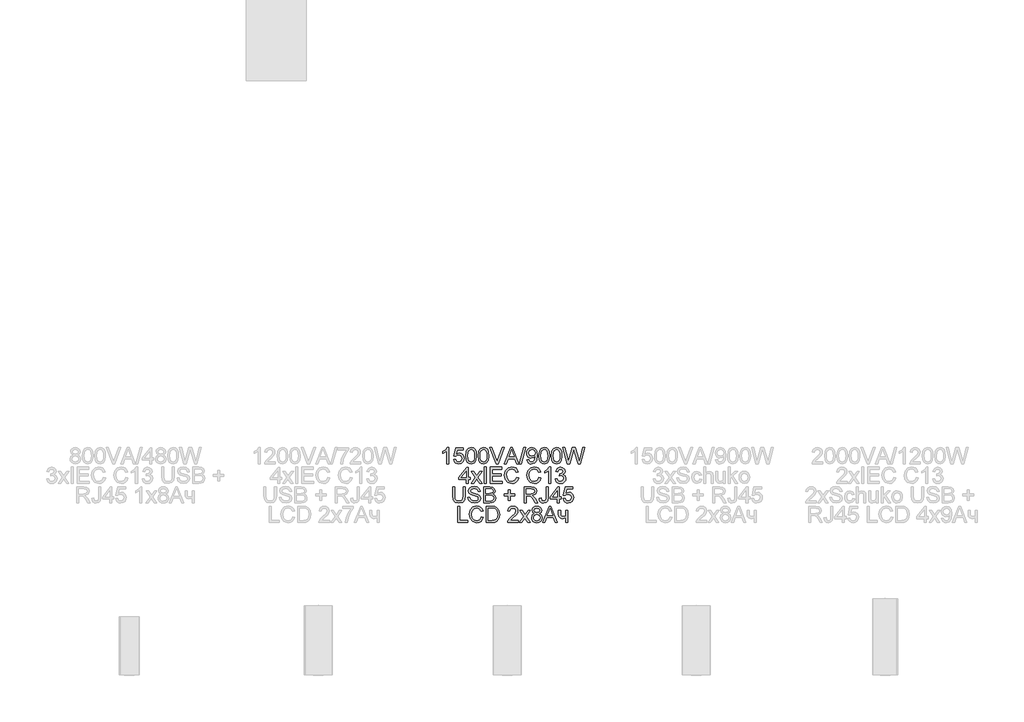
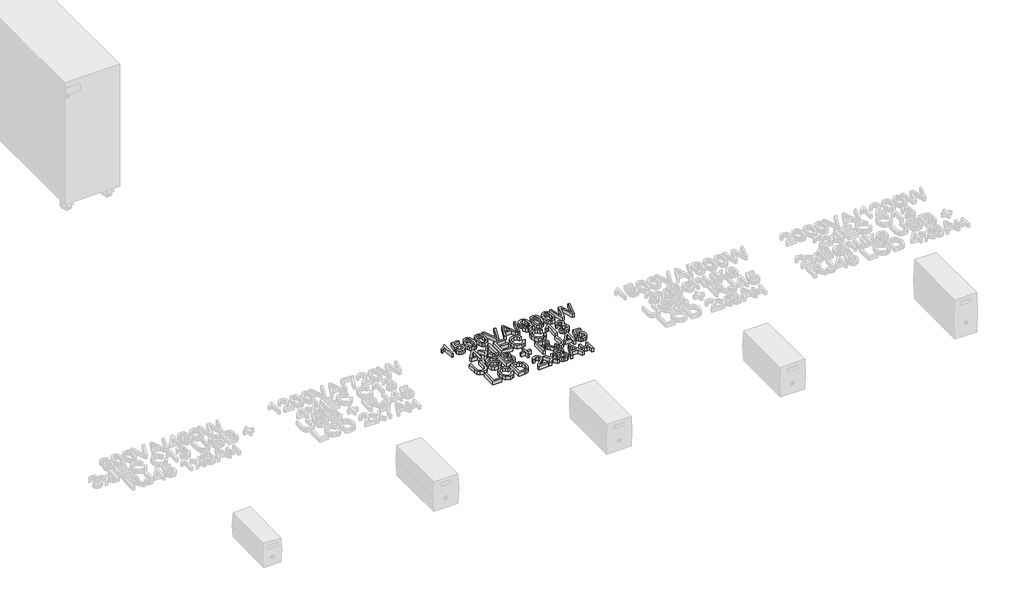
# One storey, part 42 of 74: 1 proxy.
"""IFC4 building model written with IfcOpenShell, lengths in millimetres."""

from ifc_helpers import new_model, si_unit, origin, origin_with_axes, place, context, project, spatial, polyline, outline, extrude, element, save

model = new_model("IFC4")

# Units and contexts
model_context = context("Model", 3, world=origin())
ifc_project = project(units=[si_unit("LENGTHUNIT", "METRE", prefix="MILLI")], contexts=[model_context])

# Site, building, storey
site = spatial("IfcSite", under=ifc_project)
building = spatial("IfcBuilding", under=site)
storey = spatial("IfcBuildingStorey", under=building, Name="Этаж 01", Elevation=0.0)

# Proxy
placement = place(None, origin())
element("IfcBuildingElementProxy", 1, Name="80 мм Arial", ObjectType="80 мм Arial", at=placement, inside=storey, context=model_context, shape_type="SweptSolid", body=[
    extrude(outline(polyline([(6711.7614359, -11026.633326), (6701.7158049, -11026.633326), (6701.7158049, -10964.0050951), (6692.1999239, -10970.783934), (6681.6245428, -10975.8558004), (6681.6245428, -10966.3595399), (6696.3496328, -10956.9613812), (6705.2867128, -10946.2682778), (6711.7614359, -10946.2682778), (6711.7614359, -11026.633326)])), origin_with_axes(), (0.0, 0.0, 1.0), 20.0),
    extrude(outline(polyline([(6735.6198095, -11005.2863601), (6745.6654406, -11004.0306562), (6750.7274968, -11014.380403), (6761.2243964, -11017.8433988), (6773.8206759, -11013.0265972), (6778.3137414, -11000.2439242), (6774.1051713, -10988.3147373), (6761.3813594, -10983.9393941), (6752.5620017, -10985.6856074), (6746.9211444, -10990.2179135), (6736.8755134, -10988.9622097), (6745.6654406, -10947.5239817), (6784.5922607, -10947.5239817), (6784.5922607, -10957.5696127), (6753.788275, -10957.5696127), (6749.4914133, -10979.7013936), (6764.1870727, -10973.8937631), (6773.5729687, -10975.6939324), (6781.3647094, -10981.0944401), (6786.6107066, -10989.3251866), (6788.3593724, -10999.6160722), (6786.7848374, -11009.6617032), (6782.0612326, -11018.2554267), (6773.0162406, -11025.480629), (6761.1851557, -11027.8890298), (6751.3185606, -11026.3414729), (6743.4581486, -11021.6988021), (6738.0699036, -11014.5005778), (6735.6198095, -11005.2863601)])), origin_with_axes(), (0.0, 0.0, 1.0), 20.0),
    extrude(outline(polyline([(6797.1492995, -10987.0982742), (6800.1021657, -10963.9756645), (6808.8724724, -10950.643621), (6823.5190809, -10946.2682778), (6835.252064, -10948.8581671), (6843.3552781, -10956.323719), (6848.0641676, -10968.2136651), (6849.8888623, -10987.0982742), (6846.9654267, -11010.122782), (6838.2245505, -11023.4842561), (6823.5190809, -11027.8890298), (6813.0810424, -11025.9760435), (6805.1544117, -11020.2370843), (6799.1505776, -11006.6450709), (6797.1492995, -10987.0982742)]), holes=[polyline([(6807.1949305, -10987.0786538), (6808.3721529, -11002.8804118), (6811.9038201, -11012.0259582), (6823.5190809, -11017.8433988), (6835.1343418, -11012.0063378), (6838.6660089, -11002.8558863), (6839.8432313, -10987.0786538), (6838.7052497, -10971.6325151), (6835.2913048, -10962.4158449), (6830.042855, -10957.8393929), (6823.4013587, -10956.3139089), (6812.060783, -10961.6898911), (6808.4113937, -10971.4804572), (6807.1949305, -10987.0786538)])]), origin_with_axes(), (0.0, 0.0, 1.0), 20.0),
    extrude(outline(polyline([(6858.6787895, -10987.0982742), (6861.6316556, -10963.9756645), (6870.4019624, -10950.643621), (6885.0485709, -10946.2682778), (6896.781554, -10948.8581671), (6904.8847681, -10956.323719), (6909.5936576, -10968.2136651), (6911.4183523, -10987.0982742), (6908.4949167, -11010.122782), (6899.7540405, -11023.4842561), (6885.0485709, -11027.8890298), (6874.6105324, -11025.9760435), (6866.6839017, -11020.2370843), (6860.6800675, -11006.6450709), (6858.6787895, -10987.0982742)]), holes=[polyline([(6868.7244205, -10987.0786538), (6869.9016429, -11002.8804118), (6873.43331, -11012.0259582), (6885.0485709, -11017.8433988), (6896.6638318, -11012.0063378), (6900.1954989, -11002.8558863), (6901.3727213, -10987.0786538), (6900.2347397, -10971.6325151), (6896.8207947, -10962.4158449), (6891.5723449, -10957.8393929), (6884.9308487, -10956.3139089), (6873.590273, -10961.6898911), (6869.9408836, -10971.4804572), (6868.7244205, -10987.0786538)])]), origin_with_axes(), (0.0, 0.0, 1.0), 20.0),
    extrude(outline(polyline([(6947.7160425, -11026.633326), (6915.7348344, -10946.2682778), (6926.4867988, -10946.2682778), (6947.8926259, -11004.1679988), (6952.2287283, -11017.2155469), (6956.5059696, -11004.1679988), (6977.9706578, -10946.2682778), (6988.7226222, -10946.2682778), (6958.0952199, -11026.633326), (6947.7160425, -11026.633326)])), origin_with_axes(), (0.0, 0.0, 1.0), 20.0),
    extrude(outline(polyline([(6988.7030019, -11026.633326), (7020.7823118, -10946.2682778), (7029.3367945, -10946.2682778), (7061.4161045, -11026.633326), (7050.8014826, -11026.633326), (7041.5995277, -11001.5192484), (7008.4999583, -11001.5192484), (6999.3176237, -11026.633326), (6988.7030019, -11026.633326)]), holes=[polyline([(7012.1885884, -10991.4736174), (7037.9305179, -10991.4736174), (7030.6906002, -10971.7159017), (7025.0595532, -10956.3139089), (7020.056358, -10969.9893089), (7012.1885884, -10991.4736174)])]), origin_with_axes(), (0.0, 0.0, 1.0), 20.0),
    extrude(outline(polyline([(7063.3585214, -11026.633326), (7085.9611912, -10946.2682778), (7095.0258036, -10946.2682778), (7072.4231338, -11026.633326), (7063.3585214, -11026.633326)])), origin_with_axes(), (0.0, 0.0, 1.0), 20.0),
    extrude(outline(polyline([(7101.0296377, -11006.5420639), (7111.0752687, -11005.2863601), (7115.5879545, -11014.8709123), (7124.1424372, -11017.8433988), (7132.2750818, -11015.9304124), (7137.7884067, -11010.8193053), (7141.0748192, -11002.0882392), (7142.5267268, -10990.4337376), (7142.4678656, -10988.4717003), (7134.4333229, -10996.0844051), (7123.4164834, -10999.0078407), (7114.2562217, -10997.2223867), (7106.6312542, -10991.8660249), (7101.4882639, -10983.5911325), (7099.7739338, -10973.0500871), (7101.5716505, -10962.16078), (7106.9648006, -10953.6259177), (7115.0655621, -10948.1076878), (7124.9861132, -10946.2682778), (7139.2991754, -10950.4670377), (7149.1486027, -10962.4354653), (7152.5134967, -10984.9204128), (7149.1584129, -11009.3183467), (7139.1814532, -11023.1408996), (7123.6715482, -11027.8890298), (7115.0827299, -11026.4886257), (7108.2303146, -11022.2874133), (7101.0296377, -11006.5420639)]), holes=[polyline([(7142.4678656, -10972.8146426), (7138.1317632, -10960.7677335), (7126.6146042, -10956.3139089), (7114.5284544, -10961.1110901), (7109.8195649, -10973.5405964), (7114.2733895, -10984.6751581), (7126.339919, -10988.9622097), (7137.9257493, -10984.6751581), (7142.4678656, -10972.8146426)])]), origin_with_axes(), (0.0, 0.0, 1.0), 20.0),
    extrude(outline(polyline([(7161.3034238, -10987.0982742), (7164.2562899, -10963.9756645), (7173.0265967, -10950.643621), (7187.6732052, -10946.2682778), (7199.4061883, -10948.8581671), (7207.5094024, -10956.323719), (7212.2182919, -10968.2136651), (7214.0429866, -10987.0982742), (7211.119551, -11010.122782), (7202.3786748, -11023.4842561), (7187.6732052, -11027.8890298), (7177.2351667, -11025.9760435), (7169.308536, -11020.2370843), (7163.3047019, -11006.6450709), (7161.3034238, -10987.0982742)]), holes=[polyline([(7171.3490548, -10987.0786538), (7172.5262772, -11002.8804118), (7176.0579444, -11012.0259582), (7187.6732052, -11017.8433988), (7199.2884661, -11012.0063378), (7202.8201332, -11002.8558863), (7203.9973556, -10987.0786538), (7202.859374, -10971.6325151), (7199.4454291, -10962.4158449), (7194.1969793, -10957.8393929), (7187.555483, -10956.3139089), (7176.2149073, -10961.6898911), (7172.5655179, -10971.4804572), (7171.3490548, -10987.0786538)])]), origin_with_axes(), (0.0, 0.0, 1.0), 20.0),
    extrude(outline(polyline([(7222.8329138, -10987.0982742), (7225.7857799, -10963.9756645), (7234.5560867, -10950.643621), (7249.2026952, -10946.2682778), (7260.9356783, -10948.8581671), (7269.0388924, -10956.323719), (7273.7477819, -10968.2136651), (7275.5724766, -10987.0982742), (7272.649041, -11010.122782), (7263.9081648, -11023.4842561), (7249.2026952, -11027.8890298), (7238.7646567, -11025.9760435), (7230.838026, -11020.2370843), (7224.8341918, -11006.6450709), (7222.8329138, -10987.0982742)]), holes=[polyline([(7232.8785448, -10987.0786538), (7234.0557672, -11002.8804118), (7237.5874343, -11012.0259582), (7249.2026952, -11017.8433988), (7260.817956, -11012.0063378), (7264.3496232, -11002.8558863), (7265.5268456, -10987.0786538), (7264.3888639, -10971.6325151), (7260.974919, -10962.4158449), (7255.7264692, -10957.8393929), (7249.0849729, -10956.3139089), (7237.7443973, -10961.6898911), (7234.0950079, -10971.4804572), (7232.8785448, -10987.0786538)])]), origin_with_axes(), (0.0, 0.0, 1.0), 20.0),
    extrude(outline(polyline([(7302.5112488, -11026.633326), (7280.5952921, -10946.2682778), (7290.9548491, -10946.2682778), (7303.6688508, -10999.0863222), (7307.5929255, -11015.3908522), (7311.7916853, -11000.969878), (7327.7234282, -10946.2682778), (7342.6545321, -10946.2682778), (7354.2305523, -10985.9210518), (7362.843896, -11015.3908522), (7366.6502484, -10999.5572111), (7379.4819724, -10946.2682778), (7389.8415294, -10946.2682778), (7367.9059523, -11026.633326), (7357.1736082, -11026.633326), (7337.9064019, -10964.632947), (7335.2184107, -10955.9803625), (7332.1968733, -10966.3987806), (7314.6366394, -11026.633326), (7302.5112488, -11026.633326)])), origin_with_axes(), (0.0, 0.0, 1.0), 20.0),
    extrude(outline(polyline([(6798.4050034, -11124.2131802), (6798.4050034, -11105.3776221), (6761.989591, -11105.3776221), (6761.989591, -11095.3319911), (6800.9164111, -11045.103836), (6808.4506344, -11045.103836), (6808.4506344, -11095.3319911), (6818.4962654, -11095.3319911), (6818.4962654, -11105.3776221), (6808.4506344, -11105.3776221), (6808.4506344, -11124.2131802), (6798.4050034, -11124.2131802)]), holes=[polyline([(6798.4050034, -11095.3319911), (6798.4050034, -11064.2925609), (6774.350426, -11095.3319911), (6798.4050034, -11095.3319911)])]), origin_with_axes(), (0.0, 0.0, 1.0), 20.0),
    extrude(outline(polyline([(6823.5190809, -11124.2131802), (6844.9837691, -11094.5471761), (6824.7747848, -11065.195098), (6836.8609346, -11065.195098), (6846.61226, -11079.3217666), (6851.1641866, -11085.9926935), (6855.1078816, -11080.5382298), (6866.2130127, -11065.195098), (6878.2991626, -11065.195098), (6857.0699189, -11094.5471761), (6877.5143476, -11124.2131802), (6865.4281978, -11124.2131802), (6853.1262239, -11106.3782611), (6850.869881, -11103.1212792), (6835.6052307, -11124.2131802), (6823.5190809, -11124.2131802)])), origin_with_axes(), (0.0, 0.0, 1.0), 20.0),
    extrude(outline(polyline([(6888.8156825, -11124.2131802), (6888.8156825, -11043.8481321), (6898.8613135, -11043.8481321), (6898.8613135, -11124.2131802), (6888.8156825, -11124.2131802)])), origin_with_axes(), (0.0, 0.0, 1.0), 20.0),
    extrude(outline(polyline([(6918.9525756, -11124.2131802), (6918.9525756, -11043.8481321), (6976.7149539, -11043.8481321), (6976.7149539, -11053.8937631), (6928.9982066, -11053.8937631), (6928.9982066, -11077.7521368), (6974.2035461, -11077.7521368), (6974.2035461, -11087.7977678), (6928.9982066, -11087.7977678), (6928.9982066, -11114.1675492), (6977.9706578, -11114.1675492), (6977.9706578, -11124.2131802), (6918.9525756, -11124.2131802)])), origin_with_axes(), (0.0, 0.0, 1.0), 20.0),
    extrude(outline(polyline([(7049.5457788, -11095.645917), (7059.5914098, -11098.2358063), (7054.9560966, -11109.9418114), (7047.6818433, -11118.4938415), (7038.1267216, -11123.7251235), (7026.6488034, -11125.4688841), (7005.7432959, -11120.1910038), (6993.4805627, -11104.9067331), (6989.2719927, -11083.4224246), (6994.0299331, -11061.5849494), (7007.5581804, -11047.4288502), (7026.8646275, -11042.5924282), (7037.8790144, -11044.157153), (7046.9853201, -11048.8513273), (7053.899049, -11056.3855505), (7058.3357059, -11066.4704223), (7048.2900749, -11068.8641078), (7040.0495182, -11056.5130829), (7026.47222, -11052.6380593), (7010.7563012, -11056.934921), (7001.8780824, -11068.4717003), (6999.3176237, -11083.4028042), (7002.3489713, -11100.7079733), (7011.7863708, -11111.7640535), (7025.6481644, -11115.4232531), (7041.0207267, -11110.4396783), (7049.5457788, -11095.645917)])), origin_with_axes(), (0.0, 0.0, 1.0), 20.0),
    extrude(outline(polyline([(7161.3034238, -11095.645917), (7171.3490548, -11098.2358063), (7166.7137417, -11109.9418114), (7159.4394884, -11118.4938415), (7149.8843667, -11123.7251235), (7138.4064484, -11125.4688841), (7117.5009409, -11120.1910038), (7105.2382077, -11104.9067331), (7101.0296377, -11083.4224246), (7105.7875782, -11061.5849494), (7119.3158254, -11047.4288502), (7138.6222725, -11042.5924282), (7149.6366595, -11044.157153), (7158.7429651, -11048.8513273), (7165.6566941, -11056.3855505), (7170.0933509, -11066.4704223), (7160.0477199, -11068.8641078), (7151.8071632, -11056.5130829), (7138.2298651, -11052.6380593), (7122.5139462, -11056.934921), (7113.6357274, -11068.4717003), (7111.0752687, -11083.4028042), (7114.1066164, -11100.7079733), (7123.5440158, -11111.7640535), (7137.4058094, -11115.4232531), (7152.7783717, -11110.4396783), (7161.3034238, -11095.645917)])), origin_with_axes(), (0.0, 0.0, 1.0), 20.0),
    extrude(outline(polyline([(7219.0658021, -11124.2131802), (7209.0201711, -11124.2131802), (7209.0201711, -11061.5849494), (7199.5042902, -11068.3637883), (7188.9289091, -11073.4356547), (7188.9289091, -11063.9393941), (7203.6539991, -11054.5412354), (7212.591079, -11043.8481321), (7219.0658021, -11043.8481321), (7219.0658021, -11124.2131802)])), origin_with_axes(), (0.0, 0.0, 1.0), 20.0),
    extrude(outline(polyline([(7242.9241758, -11102.8662143), (7252.9698068, -11101.6105105), (7258.5125622, -11112.1858915), (7268.8819294, -11115.4232531), (7281.0858014, -11110.9694284), (7285.6181076, -11099.9427787), (7281.1250422, -11089.5537912), (7269.705985, -11085.443323), (7262.6622711, -11086.5420639), (7263.7806324, -11076.4964329), (7265.389503, -11076.6141552), (7276.7889397, -11073.7299603), (7281.850996, -11064.8615517), (7278.1819862, -11057.0035923), (7268.7249664, -11053.8937631), (7259.1502243, -11057.0330228), (7254.2255107, -11066.4508019), (7244.1798797, -11065.195098), (7252.400816, -11049.4399384), (7268.3717997, -11043.8481321), (7280.4873801, -11046.6047945), (7288.9633812, -11054.1390178), (7291.896627, -11064.2729405), (7289.110534, -11073.5337566), (7280.8699773, -11080.1850631), (7291.8181455, -11087.0521936), (7295.6637386, -11100.1193621), (7293.7409421, -11109.9099283), (7287.9725524, -11118.0916238), (7279.2660118, -11123.624569), (7268.5287627, -11125.4688841), (7258.816678, -11123.8943492), (7250.9096676, -11119.1707444), (7245.4110581, -11111.945542), (7242.9241758, -11102.8662143)])), origin_with_axes(), (0.0, 0.0, 1.0), 20.0),
    extrude(outline(polyline([(6783.3365569, -11141.4279864), (6793.3821879, -11141.4279864), (6793.3821879, -11187.790928), (6790.654956, -11207.0090834), (6780.8251491, -11218.5851035), (6762.1857947, -11223.0487384), (6743.8309357, -11219.1639045), (6733.647962, -11207.9116206), (6730.596994, -11187.790928), (6730.596994, -11141.4279864), (6740.6426251, -11141.4279864), (6740.6426251, -11187.4377613), (6742.6242827, -11202.7514624), (6749.4325522, -11210.3347366), (6761.2440168, -11213.0031074), (6771.4613261, -11211.6836373), (6778.2548802, -11207.725227), (6782.0661377, -11200.0144204), (6783.3365569, -11187.4377613), (6783.3365569, -11141.4279864)])), origin_with_axes(), (0.0, 0.0, 1.0), 20.0),
    extrude(outline(polyline([(6807.1949305, -11194.1675492), (6817.2405615, -11194.1675492), (6820.4779231, -11204.2229904), (6828.3849334, -11210.5799913), (6840.4318425, -11213.0031074), (6850.9287421, -11211.1686025), (6857.707581, -11206.1261666), (6859.9344934, -11199.3865685), (6858.2667616, -11193.1178593), (6851.4388718, -11188.5561225), (6836.8118837, -11184.7203396), (6821.0665343, -11179.7661954), (6812.5218618, -11172.2908332), (6809.7063383, -11162.3040633), (6813.1889545, -11150.9340571), (6823.3621179, -11142.9093246), (6838.2539811, -11140.1722825), (6854.1464833, -11143.036857), (6864.7414848, -11151.453997), (6868.7244205, -11164.0306562), (6858.6787895, -11164.0306562), (6852.9888813, -11153.7103399), (6838.6463886, -11150.2179135), (6824.2646551, -11153.6710992), (6819.7519693, -11162.0097577), (6822.9500901, -11168.9749902), (6839.352722, -11174.5864169), (6857.12878, -11179.6288528), (6866.8506749, -11187.7713076), (6869.9801244, -11199.1315036), (6866.3797859, -11211.1489821), (6856.0202289, -11219.9192889), (6840.82425, -11223.0487384), (6822.8814188, -11219.6740342), (6811.531033, -11209.510681), (6807.1949305, -11194.1675492)])), origin_with_axes(), (0.0, 0.0, 1.0), 20.0),
    extrude(outline(polyline([(6885.0485709, -11221.7930345), (6885.0485709, -11141.4279864), (6915.715214, -11141.4279864), (6930.7346096, -11143.7922413), (6939.6030182, -11151.0615896), (6942.8109492, -11161.3426651), (6940.1131479, -11170.7310136), (6931.9608829, -11177.8433988), (6941.8593611, -11185.3383813), (6945.322357, -11197.836559), (6942.958102, -11208.6375744), (6937.1014207, -11216.3287606), (6928.3605445, -11220.4097982), (6915.4797695, -11221.7930345), (6885.0485709, -11221.7930345)]), holes=[polyline([(6895.0942019, -11174.0762872), (6913.4392507, -11174.0762872), (6924.1519744, -11173.2129908), (6930.597267, -11169.4949301), (6932.7653182, -11162.9515357), (6930.7444198, -11156.3983311), (6924.9564097, -11152.5233074), (6912.0462042, -11151.4736174), (6895.0942019, -11151.4736174), (6895.0942019, -11174.0762872)]), polyline([(6895.0942019, -11211.7474035), (6915.6955936, -11211.7474035), (6923.1513354, -11211.354996), (6929.4592853, -11209.1673244), (6933.6384248, -11204.7036896), (6935.276726, -11197.9346609), (6933.3539294, -11190.1257524), (6927.124461, -11185.4659138), (6914.714575, -11184.1219182), (6895.0942019, -11184.1219182), (6895.0942019, -11211.7474035)])]), origin_with_axes(), (0.0, 0.0, 1.0), 20.0),
    extrude(outline(polyline([(7009.3632547, -11209.2359957), (7009.3632547, -11187.8890298), (6988.0162888, -11187.8890298), (6988.0162888, -11177.8433988), (7009.3632547, -11177.8433988), (7009.3632547, -11156.4964329), (7019.4088857, -11156.4964329), (7019.4088857, -11177.8433988), (7040.7558516, -11177.8433988), (7040.7558516, -11187.8890298), (7019.4088857, -11187.8890298), (7019.4088857, -11209.2359957), (7009.3632547, -11209.2359957)])), origin_with_axes(), (0.0, 0.0, 1.0), 20.0),
    extrude(outline(polyline([(7087.2168951, -11221.7930345), (7087.2168951, -11141.4279864), (7121.8468535, -11141.4279864), (7137.9257493, -11143.5960376), (7146.7156764, -11151.2676035), (7150.0020889, -11163.4224246), (7144.5574354, -11177.9022599), (7127.7329655, -11185.3776221), (7133.442494, -11189.6744838), (7141.5849489, -11200.0144204), (7154.9856637, -11221.7930345), (7143.3115417, -11221.7930345), (7132.8538828, -11205.1353378), (7125.3000392, -11194.1086881), (7119.9927283, -11188.8994791), (7115.2151674, -11186.9864927), (7109.3879166, -11186.633326), (7097.2625261, -11186.633326), (7097.2625261, -11221.7930345), (7087.2168951, -11221.7930345)]), holes=[polyline([(7097.2625261, -11176.5876949), (7119.7474736, -11176.5876949), (7131.2155817, -11175.1652179), (7137.7295456, -11170.6132913), (7139.9564579, -11163.7952117), (7135.7086471, -11154.9464234), (7122.2785018, -11151.4736174), (7097.2625261, -11151.4736174), (7097.2625261, -11176.5876949)])]), origin_with_axes(), (0.0, 0.0, 1.0), 20.0),
    extrude(outline(polyline([(7162.5591277, -11199.2296055), (7172.6047587, -11197.9346609), (7176.038324, -11209.8049866), (7184.5143252, -11213.0031074), (7191.3912659, -11211.1882229), (7195.3742016, -11206.2438889), (7196.4631324, -11196.2865495), (7196.4631324, -11141.4279864), (7206.5087634, -11141.4279864), (7206.5087634, -11196.1099662), (7204.0856473, -11211.7179729), (7196.394461, -11220.1449232), (7184.0434362, -11223.0487384), (7174.7580946, -11221.5502324), (7167.9351099, -11217.0547144), (7163.7952112, -11209.6014252), (7162.5591277, -11199.2296055)])), origin_with_axes(), (0.0, 0.0, 1.0), 20.0),
    extrude(outline(polyline([(7252.9698068, -11221.7930345), (7252.9698068, -11202.9574764), (7216.5543944, -11202.9574764), (7216.5543944, -11192.9118453), (7255.4812146, -11142.6836903), (7263.0154378, -11142.6836903), (7263.0154378, -11192.9118453), (7273.0610688, -11192.9118453), (7273.0610688, -11202.9574764), (7263.0154378, -11202.9574764), (7263.0154378, -11221.7930345), (7252.9698068, -11221.7930345)]), holes=[polyline([(7252.9698068, -11192.9118453), (7252.9698068, -11161.8724151), (7228.9152294, -11192.9118453), (7252.9698068, -11192.9118453)])]), origin_with_axes(), (0.0, 0.0, 1.0), 20.0),
    extrude(outline(polyline([(7281.850996, -11200.4460686), (7291.896627, -11199.1903647), (7296.9586833, -11209.5401115), (7307.4555828, -11213.0031074), (7320.0518624, -11208.1863058), (7324.5449278, -11195.4036327), (7320.3363578, -11183.4744459), (7307.6125458, -11179.0991027), (7298.7931881, -11180.8453159), (7293.1523309, -11185.3776221), (7283.1066999, -11184.1219182), (7291.896627, -11142.6836903), (7330.8234472, -11142.6836903), (7330.8234472, -11152.7293213), (7300.0194614, -11152.7293213), (7295.7225997, -11174.8611021), (7310.4182592, -11169.0534717), (7319.8041552, -11170.8536409), (7327.5958958, -11176.2541486), (7332.8418931, -11184.4848951), (7334.5905588, -11194.7757808), (7333.0160239, -11204.8214118), (7328.2924191, -11213.4151352), (7319.2474271, -11220.6403376), (7307.4163421, -11223.0487384), (7297.549747, -11221.5011815), (7289.689335, -11216.8585107), (7284.3010901, -11209.6602863), (7281.850996, -11200.4460686)])), origin_with_axes(), (0.0, 0.0, 1.0), 20.0),
    extrude(outline(polyline([(6756.3389235, -11319.3728888), (6756.3389235, -11239.0078407), (6766.3845545, -11239.0078407), (6766.3845545, -11309.3272578), (6806.5670786, -11309.3272578), (6806.5670786, -11319.3728888), (6756.3389235, -11319.3728888)])), origin_with_axes(), (0.0, 0.0, 1.0), 20.0),
    extrude(outline(polyline([(6874.3750879, -11290.8056256), (6884.420719, -11293.3955148), (6879.7854058, -11305.1015199), (6872.5111525, -11313.65355), (6862.9560308, -11318.884832), (6851.4781126, -11320.6285927), (6830.572605, -11315.3507123), (6818.3098719, -11300.0664417), (6814.1013018, -11278.5821332), (6818.8592423, -11256.7446579), (6832.3874896, -11242.5885588), (6851.6939367, -11237.7521368), (6862.7083236, -11239.3168615), (6871.8146293, -11244.0110358), (6878.7283582, -11251.5452591), (6883.1650151, -11261.6301308), (6873.1193841, -11264.0238163), (6864.8788274, -11251.6727915), (6851.3015292, -11247.7977678), (6835.5856104, -11252.0946295), (6826.7073915, -11263.6314089), (6824.1469329, -11278.5625128), (6827.1782805, -11295.8676818), (6836.61568, -11306.9237621), (6850.4774735, -11310.5829617), (6865.8500358, -11305.5993869), (6874.3750879, -11290.8056256)])), origin_with_axes(), (0.0, 0.0, 1.0), 20.0),
    extrude(outline(polyline([(6898.2334616, -11319.3728888), (6898.2334616, -11239.0078407), (6925.9570488, -11239.0078407), (6940.2995415, -11240.1654427), (6952.1110061, -11245.914212), (6961.626887, -11259.6484731), (6964.7857671, -11278.7587165), (6962.6471464, -11294.9749549), (6957.1534419, -11306.6785074), (6949.8154224, -11313.967476), (6940.2112498, -11317.9994627), (6927.2912341, -11319.3728888), (6898.2334616, -11319.3728888)]), holes=[polyline([(6908.2790926, -11309.3272578), (6926.0551506, -11309.3272578), (6938.9849765, -11307.8753502), (6946.4407182, -11303.7746922), (6952.5524645, -11293.7977325), (6954.7401361, -11278.6017535), (6950.4530845, -11259.5699917), (6940.0248562, -11250.6623423), (6925.7804654, -11249.0534717), (6908.2790926, -11249.0534717), (6908.2790926, -11309.3272578)])]), origin_with_axes(), (0.0, 0.0, 1.0), 20.0),
    extrude(outline(polyline([(7057.707854, -11309.3272578), (7057.707854, -11319.3728888), (7004.9682911, -11319.3728888), (7006.0474117, -11312.4468971), (7012.1493477, -11301.7832243), (7024.7260068, -11290.1385329), (7042.0704166, -11273.4023547), (7046.4065191, -11262.0225383), (7042.3156713, -11252.8107731), (7031.6323781, -11249.0534717), (7020.4978164, -11252.7224814), (7016.269626, -11262.8662143), (7006.223995, -11261.6105105), (7008.6593738, -11251.8935207), (7013.9249914, -11244.7958507), (7021.7461627, -11240.4548432), (7031.8482022, -11239.0078407), (7042.0238182, -11240.6167113), (7049.8302742, -11245.443323), (7054.7966811, -11252.6538101), (7056.4521501, -11261.4143067), (7054.6666961, -11270.9399979), (7048.7315333, -11280.7894251), (7034.3399896, -11294.5531168), (7022.7835899, -11304.2161506), (7018.2512837, -11309.3272578), (7057.707854, -11309.3272578)])), origin_with_axes(), (0.0, 0.0, 1.0), 20.0),
    extrude(outline(polyline([(7063.9863733, -11319.3728888), (7085.4510615, -11289.7068847), (7065.2420772, -11260.3548066), (7077.328227, -11260.3548066), (7087.0795525, -11274.4814752), (7091.631479, -11281.152402), (7095.575174, -11275.6979383), (7106.6803052, -11260.3548066), (7118.766455, -11260.3548066), (7097.5372113, -11289.7068847), (7117.98164, -11319.3728888), (7105.8954902, -11319.3728888), (7093.5935163, -11301.5379697), (7091.3371734, -11298.2809877), (7076.0725232, -11319.3728888), (7063.9863733, -11319.3728888)])), origin_with_axes(), (0.0, 0.0, 1.0), 20.0),
    extrude(outline(polyline([(7138.8969577, -11275.1093271), (7129.7440537, -11268.8700485), (7126.7715672, -11259.1579638), (7128.390248, -11251.3049095), (7133.2462903, -11244.8154711), (7140.7952288, -11240.4597483), (7150.4925982, -11239.0078407), (7160.2488287, -11240.4940839), (7167.8958692, -11244.9528137), (7172.8402032, -11251.5452591), (7174.4883145, -11259.432649), (7171.5550687, -11268.8994791), (7162.6572295, -11275.1093271), (7173.3405227, -11282.9869069), (7176.9997223, -11295.9854041), (7175.1848378, -11305.5895767), (7169.7401842, -11313.5260176), (7161.3328544, -11318.8529489), (7150.6299408, -11320.6285927), (7139.9270273, -11318.8455913), (7131.5196975, -11313.4965871), (7126.0750439, -11305.4841172), (7124.2601594, -11295.7107189), (7128.0665118, -11282.4081059), (7138.8969577, -11275.1093271)]), holes=[polyline([(7136.8171982, -11259.4522694), (7140.3782959, -11267.3396594), (7150.7476631, -11270.4004376), (7160.9110163, -11267.3592798), (7164.4426835, -11259.903538), (7160.7932941, -11252.1829212), (7150.6299408, -11249.0534717), (7140.437157, -11252.1142499), (7136.8171982, -11259.4522694)]), polyline([(7134.3057904, -11295.3575521), (7135.9833323, -11302.921206), (7141.9184952, -11308.5816836), (7150.7084223, -11310.5829617), (7162.6768499, -11306.3743916), (7166.9540912, -11295.6714781), (7162.5395073, -11284.7625507), (7150.374876, -11280.4460686), (7138.5536012, -11284.7036896), (7134.3057904, -11295.3575521)])]), origin_with_axes(), (0.0, 0.0, 1.0), 20.0),
    extrude(outline(polyline([(7180.1978431, -11319.3728888), (7212.2771531, -11239.0078407), (7220.8316357, -11239.0078407), (7252.9109457, -11319.3728888), (7242.2963239, -11319.3728888), (7233.0943689, -11294.2588113), (7199.9947995, -11294.2588113), (7190.8124649, -11319.3728888), (7180.1978431, -11319.3728888)]), holes=[polyline([(7203.6834296, -11284.2131802), (7229.4253591, -11284.2131802), (7222.1854415, -11264.4554645), (7216.5543944, -11249.0534717), (7211.5511992, -11262.7288717), (7203.6834296, -11284.2131802)])]), origin_with_axes(), (0.0, 0.0, 1.0), 20.0),
    extrude(outline(polyline([(7258.6204743, -11260.3548066), (7268.6661053, -11260.3548066), (7268.6661053, -11271.6757618), (7269.4803508, -11282.2903837), (7273.3946152, -11288.039153), (7281.1642829, -11290.4916996), (7295.0358867, -11287.4505418), (7295.0358867, -11260.3548066), (7305.0815177, -11260.3548066), (7305.0815177, -11319.3728888), (7295.0358867, -11319.3728888), (7295.0358867, -11297.084145), (7278.4762918, -11300.5373306), (7267.0866652, -11296.9369922), (7260.3863078, -11288.1176345), (7258.6204743, -11276.6397162), (7258.6204743, -11260.3548066)])), origin_with_axes(), (0.0, 0.0, 1.0), 20.0),
])

save(model, "model.ifc")
